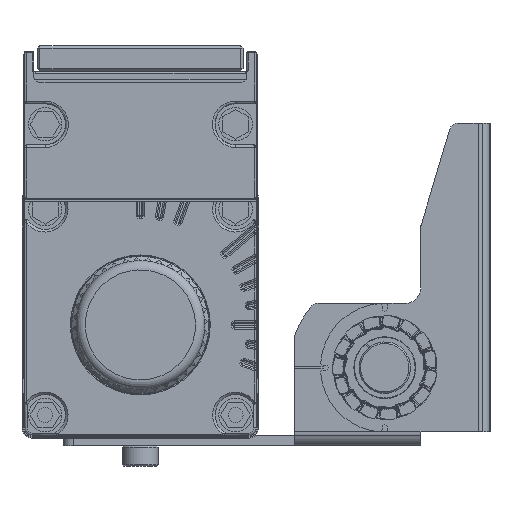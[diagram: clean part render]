
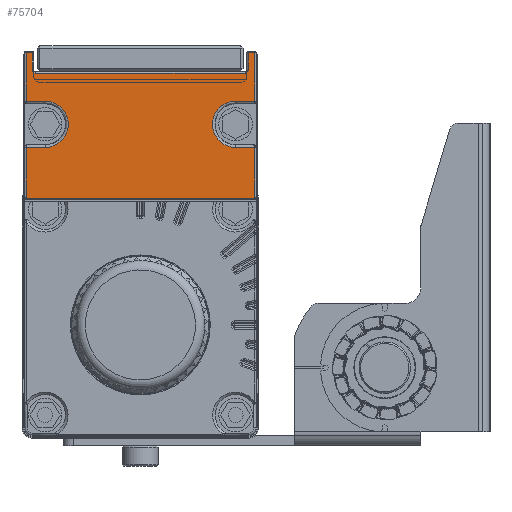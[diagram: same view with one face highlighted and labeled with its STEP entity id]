
A CAD part, front view. The second image highlights one B-rep face of the part: STEP entity #75704.
In plain terms, the highlighted planar face has unit normal (0, -1, 0).
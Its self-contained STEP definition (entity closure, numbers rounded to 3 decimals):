
#1270=ELLIPSE('',#80165,0.2,0.2);
#1271=ELLIPSE('',#80166,0.2,0.2);
#1272=ELLIPSE('',#80168,0.2,0.2);
#1273=ELLIPSE('',#80169,0.2,0.2);
#5391=CIRCLE('',#80129,0.6);
#5398=CIRCLE('',#80139,0.6);
#5405=CIRCLE('',#80151,0.2);
#5410=CIRCLE('',#80161,0.2);
#5413=CIRCLE('',#80167,4.491);
#5414=CIRCLE('',#80170,4.491);
#15493=ORIENTED_EDGE('',*,*,#27772,.T.);
#15494=ORIENTED_EDGE('',*,*,#27773,.T.);
#15495=ORIENTED_EDGE('',*,*,#27774,.T.);
#15496=ORIENTED_EDGE('',*,*,#27721,.T.);
#15497=ORIENTED_EDGE('',*,*,#27775,.T.);
#15498=ORIENTED_EDGE('',*,*,#27735,.T.);
#15499=ORIENTED_EDGE('',*,*,#27717,.T.);
#15500=ORIENTED_EDGE('',*,*,#27728,.T.);
#15501=ORIENTED_EDGE('',*,*,#27776,.T.);
#15502=ORIENTED_EDGE('',*,*,#27711,.T.);
#15503=ORIENTED_EDGE('',*,*,#27777,.T.);
#15504=ORIENTED_EDGE('',*,*,#27778,.T.);
#15505=ORIENTED_EDGE('',*,*,#27779,.T.);
#15506=ORIENTED_EDGE('',*,*,#27780,.T.);
#15507=ORIENTED_EDGE('',*,*,#27781,.T.);
#15508=ORIENTED_EDGE('',*,*,#27782,.T.);
#15509=ORIENTED_EDGE('',*,*,#27783,.T.);
#15510=ORIENTED_EDGE('',*,*,#27769,.T.);
#15511=ORIENTED_EDGE('',*,*,#27723,.T.);
#15512=ORIENTED_EDGE('',*,*,#27758,.T.);
#15513=ORIENTED_EDGE('',*,*,#27784,.T.);
#15514=ORIENTED_EDGE('',*,*,#27785,.T.);
#15515=ORIENTED_EDGE('',*,*,#27786,.T.);
#15516=ORIENTED_EDGE('',*,*,#27787,.T.);
#27711=EDGE_CURVE('',#34309,#34308,#38290,.T.);
#27717=EDGE_CURVE('',#34311,#34314,#38293,.T.);
#27721=EDGE_CURVE('',#34315,#34318,#38295,.T.);
#27723=EDGE_CURVE('',#34321,#34320,#38296,.T.);
#27728=EDGE_CURVE('',#34314,#34324,#5391,.F.);
#27735=EDGE_CURVE('',#34327,#34311,#5398,.F.);
#27758=EDGE_CURVE('',#34320,#34346,#5405,.T.);
#27769=EDGE_CURVE('',#34353,#34321,#5410,.T.);
#27772=EDGE_CURVE('',#34355,#34356,#38318,.F.);
#27773=EDGE_CURVE('',#34356,#34357,#1270,.T.);
#27774=EDGE_CURVE('',#34357,#34315,#38319,.T.);
#27775=EDGE_CURVE('',#34318,#34327,#38320,.T.);
#27776=EDGE_CURVE('',#34324,#34309,#38321,.T.);
#27777=EDGE_CURVE('',#34308,#34358,#38322,.T.);
#27778=EDGE_CURVE('',#34358,#34359,#1271,.T.);
#27779=EDGE_CURVE('',#34359,#34360,#38323,.F.);
#27780=EDGE_CURVE('',#34360,#34361,#5413,.F.);
#27781=EDGE_CURVE('',#34361,#34362,#38324,.F.);
#27782=EDGE_CURVE('',#34362,#34363,#1272,.T.);
#27783=EDGE_CURVE('',#34363,#34353,#38325,.T.);
#27784=EDGE_CURVE('',#34346,#34364,#38326,.T.);
#27785=EDGE_CURVE('',#34364,#34365,#1273,.T.);
#27786=EDGE_CURVE('',#34365,#34366,#38327,.F.);
#27787=EDGE_CURVE('',#34366,#34355,#5414,.F.);
#34308=VERTEX_POINT('',#465963);
#34309=VERTEX_POINT('',#465965);
#34311=VERTEX_POINT('',#465971);
#34314=VERTEX_POINT('',#465976);
#34315=VERTEX_POINT('',#465980);
#34318=VERTEX_POINT('',#465985);
#34320=VERTEX_POINT('',#465990);
#34321=VERTEX_POINT('',#465992);
#34324=VERTEX_POINT('',#466000);
#34327=VERTEX_POINT('',#466012);
#34346=VERTEX_POINT('',#466068);
#34353=VERTEX_POINT('',#466092);
#34355=VERTEX_POINT('',#466098);
#34356=VERTEX_POINT('',#466099);
#34357=VERTEX_POINT('',#466101);
#34358=VERTEX_POINT('',#466106);
#34359=VERTEX_POINT('',#466108);
#34360=VERTEX_POINT('',#466110);
#34361=VERTEX_POINT('',#466112);
#34362=VERTEX_POINT('',#466114);
#34363=VERTEX_POINT('',#466116);
#34364=VERTEX_POINT('',#466119);
#34365=VERTEX_POINT('',#466121);
#34366=VERTEX_POINT('',#466123);
#38290=LINE('',#465964,#42078);
#38293=LINE('',#465977,#42081);
#38295=LINE('',#465986,#42083);
#38296=LINE('',#465991,#42084);
#38318=LINE('',#466097,#42106);
#38319=LINE('',#466102,#42107);
#38320=LINE('',#466103,#42108);
#38321=LINE('',#466104,#42109);
#38322=LINE('',#466105,#42110);
#38323=LINE('',#466109,#42111);
#38324=LINE('',#466113,#42112);
#38325=LINE('',#466117,#42113);
#38326=LINE('',#466118,#42114);
#38327=LINE('',#466122,#42115);
#42078=VECTOR('',#90563,1000.);
#42081=VECTOR('',#90574,1000.);
#42083=VECTOR('',#90582,1000.);
#42084=VECTOR('',#90587,1000.);
#42106=VECTOR('',#90689,1000.);
#42107=VECTOR('',#90692,1000.);
#42108=VECTOR('',#90693,1000.);
#42109=VECTOR('',#90694,1000.);
#42110=VECTOR('',#90695,1000.);
#42111=VECTOR('',#90698,1000.);
#42112=VECTOR('',#90701,1000.);
#42113=VECTOR('',#90704,1000.);
#42114=VECTOR('',#90705,1000.);
#42115=VECTOR('',#90708,1000.);
#45626=EDGE_LOOP('',(#15493,#15494,#15495,#15496,#15497,#15498,#15499,#15500,
#15501,#15502,#15503,#15504,#15505,#15506,#15507,#15508,#15509,#15510,#15511,
#15512,#15513,#15514,#15515,#15516));
#49011=FACE_BOUND('',#45626,.T.);
#51182=PLANE('',#80164);
#75704=ADVANCED_FACE('',(#49011),#51182,.T.);
#80129=AXIS2_PLACEMENT_3D('',#466001,#90597,#90598);
#80139=AXIS2_PLACEMENT_3D('',#466015,#90617,#90618);
#80151=AXIS2_PLACEMENT_3D('',#466069,#90655,#90656);
#80161=AXIS2_PLACEMENT_3D('',#466091,#90681,#90682);
#80164=AXIS2_PLACEMENT_3D('',#466096,#90687,#90688);
#80165=AXIS2_PLACEMENT_3D('',#466100,#90690,#90691);
#80166=AXIS2_PLACEMENT_3D('',#466107,#90696,#90697);
#80167=AXIS2_PLACEMENT_3D('',#466111,#90699,#90700);
#80168=AXIS2_PLACEMENT_3D('',#466115,#90702,#90703);
#80169=AXIS2_PLACEMENT_3D('',#466120,#90706,#90707);
#80170=AXIS2_PLACEMENT_3D('',#466124,#90709,#90710);
#90563=DIRECTION('',(-1.,0.,0.));
#90574=DIRECTION('',(-1.,0.,0.));
#90582=DIRECTION('',(-1.,0.,0.));
#90587=DIRECTION('',(1.,0.,0.));
#90597=DIRECTION('',(0.,-1.,0.));
#90598=DIRECTION('',(0.,0.,-1.));
#90617=DIRECTION('',(0.,-1.,0.));
#90618=DIRECTION('',(0.,0.,-1.));
#90655=DIRECTION('',(0.,-1.,0.));
#90656=DIRECTION('',(0.,0.,-1.));
#90681=DIRECTION('',(0.,-1.,0.));
#90682=DIRECTION('',(0.,0.,-1.));
#90687=DIRECTION('',(0.,-1.,0.));
#90688=DIRECTION('',(0.,0.,-1.));
#90689=DIRECTION('',(-1.,0.,0.));
#90690=DIRECTION('',(0.,-1.,0.));
#90691=DIRECTION('',(0.,0.,1.));
#90692=DIRECTION('',(0.,0.,1.));
#90693=DIRECTION('',(0.,0.,-1.));
#90694=DIRECTION('',(0.,0.,1.));
#90695=DIRECTION('',(0.,0.,-1.));
#90696=DIRECTION('',(0.,-1.,0.));
#90697=DIRECTION('',(0.,0.,1.));
#90698=DIRECTION('',(-1.,0.,0.));
#90699=DIRECTION('',(0.,-1.,0.));
#90700=DIRECTION('',(0.,0.,-1.));
#90701=DIRECTION('',(1.,0.,0.));
#90702=DIRECTION('',(0.,-1.,0.));
#90703=DIRECTION('',(0.,0.,1.));
#90704=DIRECTION('',(0.,0.,-1.));
#90705=DIRECTION('',(0.,0.,1.));
#90706=DIRECTION('',(0.,-1.,0.));
#90707=DIRECTION('',(0.,0.,1.));
#90708=DIRECTION('',(1.,0.,0.));
#90709=DIRECTION('',(0.,-1.,0.));
#90710=DIRECTION('',(0.,0.,-1.));
#465963=CARTESIAN_POINT('',(-22.2,-460.,-1.7));
#465964=CARTESIAN_POINT('',(-2.5,-460.,-1.7));
#465965=CARTESIAN_POINT('',(-21.,-460.,-1.7));
#465971=CARTESIAN_POINT('',(20.4,-460.,-5.7));
#465976=CARTESIAN_POINT('',(-20.4,-460.,-5.7));
#465977=CARTESIAN_POINT('',(-2.5,-460.,-5.7));
#465980=CARTESIAN_POINT('',(22.2,-460.,-1.7));
#465985=CARTESIAN_POINT('',(21.,-460.,-1.7));
#465986=CARTESIAN_POINT('',(-2.5,-460.,-1.7));
#465990=CARTESIAN_POINT('',(22.,-460.,-30.));
#465991=CARTESIAN_POINT('',(-2.5,-460.,-30.));
#465992=CARTESIAN_POINT('',(-22.,-460.,-30.));
#466000=CARTESIAN_POINT('',(-21.,-460.,-5.1));
#466001=CARTESIAN_POINT('',(-20.4,-460.,-5.1));
#466012=CARTESIAN_POINT('',(21.,-460.,-5.1));
#466015=CARTESIAN_POINT('',(20.4,-460.,-5.1));
#466068=CARTESIAN_POINT('',(22.2,-460.,-29.8));
#466069=CARTESIAN_POINT('',(22.,-460.,-29.8));
#466091=CARTESIAN_POINT('',(-22.,-460.,-29.8));
#466092=CARTESIAN_POINT('',(-22.2,-460.,-29.8));
#466096=CARTESIAN_POINT('',(-2.5,-460.,5.9));
#466097=CARTESIAN_POINT('',(-2.5,-460.,-11.109));
#466098=CARTESIAN_POINT('',(18.5,-460.,-11.109));
#466099=CARTESIAN_POINT('',(22.2,-460.,-11.109));
#466100=CARTESIAN_POINT('',(22.,-460.,-11.105));
#466101=CARTESIAN_POINT('',(22.2,-460.,-11.105));
#466102=CARTESIAN_POINT('',(22.2,-460.,5.9));
#466103=CARTESIAN_POINT('',(21.,-460.,5.9));
#466104=CARTESIAN_POINT('',(-21.,-460.,5.9));
#466105=CARTESIAN_POINT('',(-22.2,-460.,5.9));
#466106=CARTESIAN_POINT('',(-22.2,-460.,-11.105));
#466107=CARTESIAN_POINT('',(-22.,-460.,-11.105));
#466108=CARTESIAN_POINT('',(-22.2,-460.,-11.109));
#466109=CARTESIAN_POINT('',(-18.5,-460.,-11.109));
#466110=CARTESIAN_POINT('',(-18.5,-460.,-11.109));
#466111=CARTESIAN_POINT('',(-18.5,-460.,-15.6));
#466112=CARTESIAN_POINT('',(-18.5,-460.,-20.091));
#466113=CARTESIAN_POINT('',(-22.2,-460.,-20.091));
#466114=CARTESIAN_POINT('',(-22.2,-460.,-20.091));
#466115=CARTESIAN_POINT('',(-22.,-460.,-20.095));
#466116=CARTESIAN_POINT('',(-22.2,-460.,-20.095));
#466117=CARTESIAN_POINT('',(-22.2,-460.,5.9));
#466118=CARTESIAN_POINT('',(22.2,-460.,5.9));
#466119=CARTESIAN_POINT('',(22.2,-460.,-20.095));
#466120=CARTESIAN_POINT('',(22.,-460.,-20.095));
#466121=CARTESIAN_POINT('',(22.2,-460.,-20.091));
#466122=CARTESIAN_POINT('',(-2.5,-460.,-20.091));
#466123=CARTESIAN_POINT('',(18.5,-460.,-20.091));
#466124=CARTESIAN_POINT('',(18.5,-460.,-15.6));
